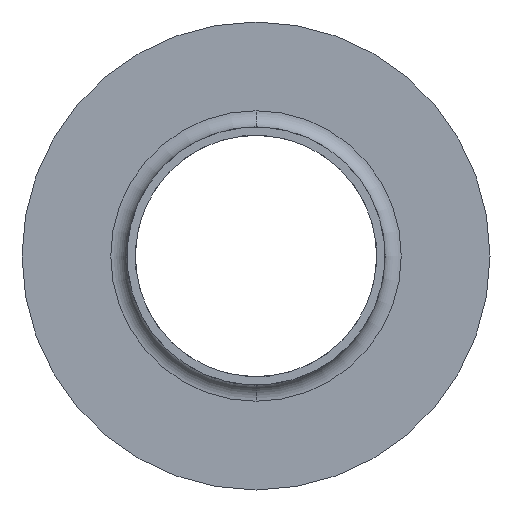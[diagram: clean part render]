
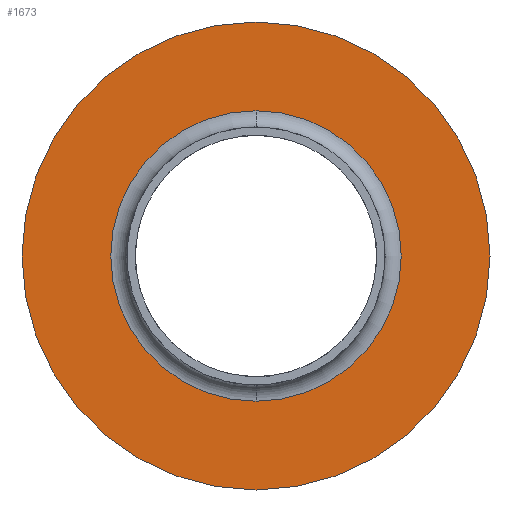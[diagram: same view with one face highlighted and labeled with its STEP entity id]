
A CAD part, front view. The second image highlights one B-rep face of the part: STEP entity #1673.
In plain terms, the highlighted planar face has unit normal (0, -1, 0).
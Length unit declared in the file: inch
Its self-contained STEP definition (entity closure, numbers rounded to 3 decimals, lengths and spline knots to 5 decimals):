
#51 = DIRECTION ( 'NONE',  ( 0., 0., -1. ) ) ;
#96 = EDGE_CURVE ( 'NONE', #3002, #937, #2931, .T. ) ;
#204 = DIRECTION ( 'NONE',  ( 0., 1., 0. ) ) ;
#294 = CIRCLE ( 'NONE', #1087, 1.8125 ) ;
#464 = FACE_BOUND ( 'NONE', #708, .T. ) ;
#507 = DIRECTION ( 'NONE',  ( 0., -1., 0. ) ) ;
#555 = ORIENTED_EDGE ( 'NONE', *, *, #96, .T. ) ;
#583 = DIRECTION ( 'NONE',  ( 0., 0., -1. ) ) ;
#653 = AXIS2_PLACEMENT_3D ( 'NONE', #1037, #1989, #583 ) ;
#708 = EDGE_LOOP ( 'NONE', ( #2818, #1556 ) ) ;
#731 = CARTESIAN_POINT ( 'NONE',  ( -1.8125, 0.38789, 0. ) ) ;
#745 = AXIS2_PLACEMENT_3D ( 'NONE', #731, #204, #1672 ) ;
#815 = EDGE_CURVE ( 'NONE', #937, #3002, #294, .T. ) ;
#882 = CARTESIAN_POINT ( 'NONE',  ( 0., 0.38789, -1.125 ) ) ;
#937 = VERTEX_POINT ( 'NONE', #2227 ) ;
#981 = FACE_OUTER_BOUND ( 'NONE', #1481, .T. ) ;
#1011 = CIRCLE ( 'NONE', #3089, 1.125 ) ;
#1037 = CARTESIAN_POINT ( 'NONE',  ( 0., 0.38789, 0. ) ) ;
#1087 = AXIS2_PLACEMENT_3D ( 'NONE', #1941, #2511, #51 ) ;
#1129 = EDGE_CURVE ( 'NONE', #2937, #1702, #2049, .T. ) ;
#1221 = CARTESIAN_POINT ( 'NONE',  ( 0., 0.38789, 1.125 ) ) ;
#1457 = EDGE_CURVE ( 'NONE', #1702, #2937, #1011, .T. ) ;
#1481 = EDGE_LOOP ( 'NONE', ( #555, #1545 ) ) ;
#1545 = ORIENTED_EDGE ( 'NONE', *, *, #815, .T. ) ;
#1556 = ORIENTED_EDGE ( 'NONE', *, *, #1457, .F. ) ;
#1672 = DIRECTION ( 'NONE',  ( 0., 0., 1. ) ) ;
#1673 = ADVANCED_FACE ( 'NONE', ( #464, #981 ), #2899, .F. ) ;
#1702 = VERTEX_POINT ( 'NONE', #1221 ) ;
#1941 = CARTESIAN_POINT ( 'NONE',  ( 0., 0.38789, 0. ) ) ;
#1958 = DIRECTION ( 'NONE',  ( 0., 0., -1. ) ) ;
#1989 = DIRECTION ( 'NONE',  ( 0., -1., 0. ) ) ;
#2049 = CIRCLE ( 'NONE', #653, 1.125 ) ;
#2195 = CARTESIAN_POINT ( 'NONE',  ( 0., 0.38789, 0. ) ) ;
#2227 = CARTESIAN_POINT ( 'NONE',  ( 0., 0.38789, 1.8125 ) ) ;
#2445 = AXIS2_PLACEMENT_3D ( 'NONE', #2716, #2704, #2694 ) ;
#2511 = DIRECTION ( 'NONE',  ( 0., -1., 0. ) ) ;
#2694 = DIRECTION ( 'NONE',  ( 0., 0., -1. ) ) ;
#2704 = DIRECTION ( 'NONE',  ( 0., -1., 0. ) ) ;
#2716 = CARTESIAN_POINT ( 'NONE',  ( 0., 0.38789, 0. ) ) ;
#2818 = ORIENTED_EDGE ( 'NONE', *, *, #1129, .F. ) ;
#2859 = CARTESIAN_POINT ( 'NONE',  ( 0., 0.38789, -1.8125 ) ) ;
#2899 = PLANE ( 'NONE',  #745 ) ;
#2931 = CIRCLE ( 'NONE', #2445, 1.8125 ) ;
#2937 = VERTEX_POINT ( 'NONE', #882 ) ;
#3002 = VERTEX_POINT ( 'NONE', #2859 ) ;
#3089 = AXIS2_PLACEMENT_3D ( 'NONE', #2195, #507, #1958 ) ;
